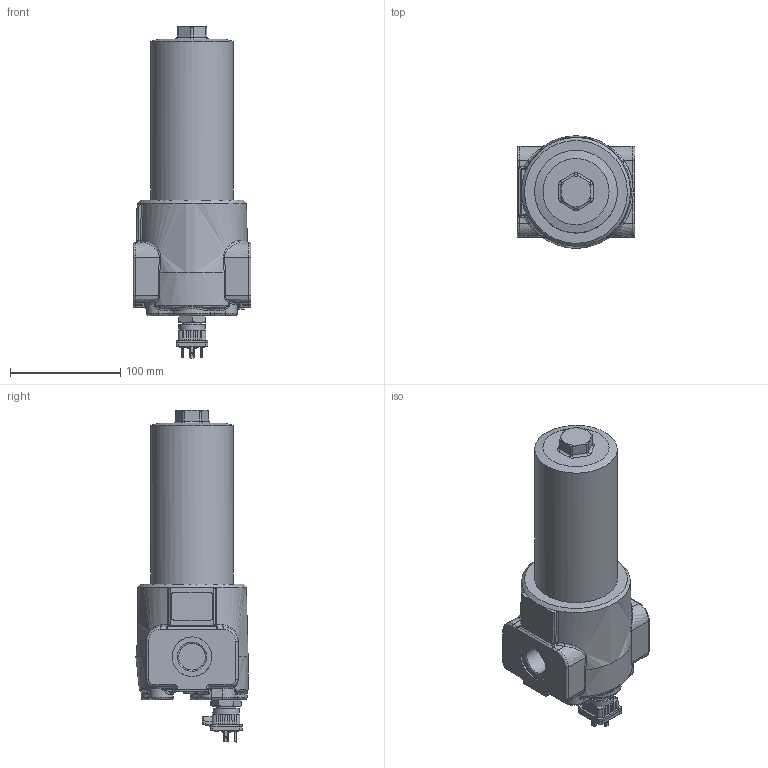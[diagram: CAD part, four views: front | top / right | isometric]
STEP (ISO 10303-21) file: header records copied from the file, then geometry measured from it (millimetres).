
FILE_DESCRIPTION((''),'2;1');
FILE_NAME('U:\Users\i.maeder\34150000_HD152-186ED8_exp.stp', '2016-07-08T14:14:29',('User'),('SDRC'),'I-DEAS Master Series 9','UNIX', 'Yes');
FILE_SCHEMA(('AUTOMOTIVE_DESIGN { 1 0 10303 214 1 1 1 1 }'));
Length unit declared in the file: millimetre
Products named in the file (1): 34150000
Bounding box: 107 x 101.84 x 301.4 mm (x, y, z)
Volume: 1545798.6 mm3; surface area: 97632.8 mm2
Topology: 1 solids, 1 shells, 1050 faces, 2841 edges, 1815 vertices
Faces by surface type: bspline 1050
Entity records: 44113 total; most frequent: CARTESIAN_POINT 28038, ORIENTED_EDGE 5636, EDGE_CURVE 2818, VERTEX_POINT 1808, B_SPLINE_CURVE_WITH_KNOTS 1577, EDGE_LOOP 1094, FACE_OUTER_BOUND 1050, ADVANCED_FACE 1050
